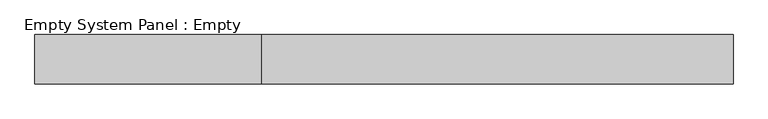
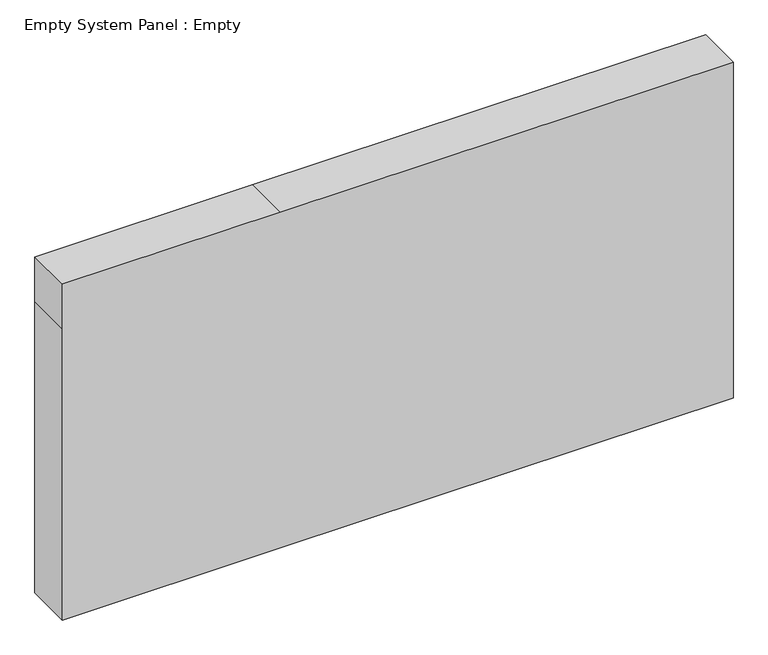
"""IFC4 building model written with IfcOpenShell, lengths in millimetres: plate geometry, Empty System Panel : Empty."""

from ifc_helpers import new_model, si_unit, frame, origin, place, context, project, spatial, polyline, outline, extrude, source, transform, mapped, element, save


def empty_system_panel_empty_e2537cab(model_context):
    return source(origin(), model_context, "Body", "SweptSolid", [
        extrude(outline(polyline([(0.0, -707.5), (0.0, -247.5), (0.0, 707.5), (650.0, 707.5), (750.0, 707.5), (750.0, -247.5), (750.0, -707.5), (650.0, -707.5), (0.0, -707.5)])), frame((0.0, -50.0, 0.0), z_axis=(0.0, 1.0, 0.0), x_axis=(0.0, 0.0, 1.0)), (0.0, 0.0, 1.0), 100.0),
    ])


if __name__ == "__main__":
    model = new_model("IFC4")
    model_context = context("Model", 3, world=origin())
    ifc_project = project(units=[si_unit("LENGTHUNIT", "METRE", prefix="MILLI")], contexts=[model_context])
    site = spatial("IfcSite", under=ifc_project)
    building = spatial("IfcBuilding", under=site)
    placement = place(None, origin())
    empty_system_panel_empty_shape = empty_system_panel_empty_e2537cab(model_context)
    element("IfcPlate", 1, ObjectType="Empty System Panel : Empty", at=placement, inside=building, context=model_context, shape_type="MappedRepresentation", body=[
        mapped(empty_system_panel_empty_shape, transform((0.0, 0.0, 0.0), x_axis=(1.0, 0.0, 0.0), y_axis=(0.0, 1.0, 0.0), z_axis=(0.0, 0.0, 1.0))),
    ])
    save(model, "model.ifc")
